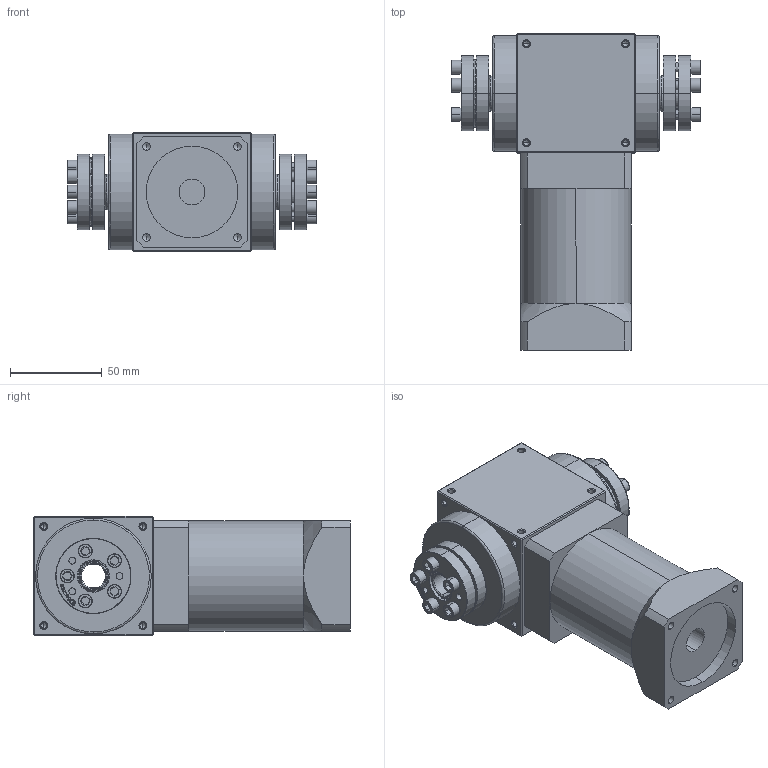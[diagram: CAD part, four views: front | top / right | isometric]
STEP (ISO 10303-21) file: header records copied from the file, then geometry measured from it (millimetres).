
FILE_DESCRIPTION (( 'STEP AP214' ), '1' );
FILE_NAME ('AT065-FC-L2（12~100--14-50-70-M4.STEP', '2020-10-08T01:43:55', ( '微软用户' ), ( '微软中国' ), 'SwSTEP 2.0', 'SolidWorks 2014', '' );
FILE_SCHEMA (( 'AUTOMOTIVE_DESIGN' ));
Length unit declared in the file: millimetre
Products named in the file (2): AT065-FC-L2（12~100--14-50-70-M4
Bounding box: 136 x 172.5 x 65 mm (x, y, z)
Volume: 694930.1 mm3; surface area: 85331.7 mm2
Topology: 17 solids, 17 shells, 945 faces, 2272 edges, 1362 vertices
Faces by surface type: cylinder 408, plane 245, cone 212, bspline 80
Entity records: 30824 total; most frequent: CARTESIAN_POINT 9379, DIRECTION 4468, ORIENTED_EDGE 4448, EDGE_CURVE 2224, AXIS2_PLACEMENT_3D 1701, VERTEX_POINT 1362, EDGE_LOOP 1084, LINE 1066
